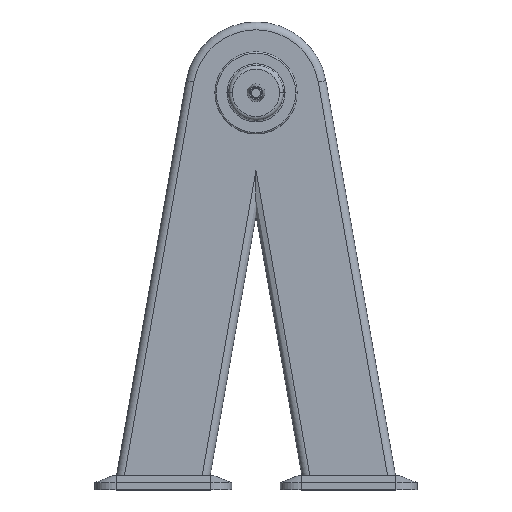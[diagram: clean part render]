
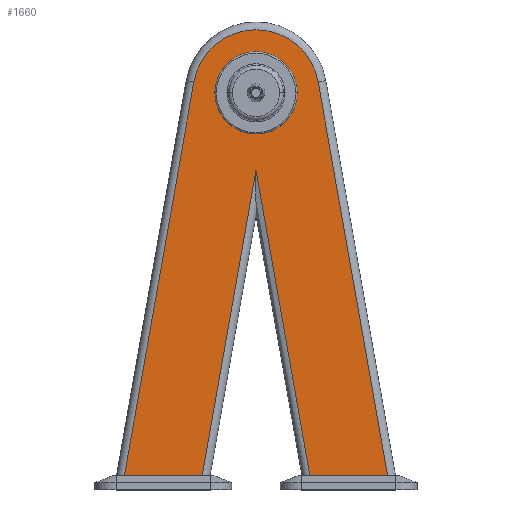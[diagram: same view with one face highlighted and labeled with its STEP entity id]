
A CAD part, top view. The second image highlights one B-rep face of the part: STEP entity #1660.
In plain terms, the highlighted planar face has unit normal (0, 0, 1).
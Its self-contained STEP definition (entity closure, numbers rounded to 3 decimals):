
#13 = CARTESIAN_POINT ( 'NONE',  ( 0., 20., 63. ) ) ;
#99 = VERTEX_POINT ( 'NONE', #2379 ) ;
#109 = ORIENTED_EDGE ( 'NONE', *, *, #558, .F. ) ;
#249 = AXIS2_PLACEMENT_3D ( 'NONE', #2354, #2359, #2585 ) ;
#265 = VERTEX_POINT ( 'NONE', #1722 ) ;
#314 = AXIS2_PLACEMENT_3D ( 'NONE', #1181, #1172, #1168 ) ;
#339 = EDGE_CURVE ( 'NONE', #99, #2601, #2583, .T. ) ;
#360 = DIRECTION ( 'NONE',  ( 0., 0., 1. ) ) ;
#407 = VECTOR ( 'NONE', #1117, 1000. ) ;
#479 = VECTOR ( 'NONE', #1148, 1000. ) ;
#550 = CIRCLE ( 'NONE', #314, 58. ) ;
#558 = EDGE_CURVE ( 'NONE', #2601, #99, #550, .T. ) ;
#567 = EDGE_CURVE ( 'NONE', #2722, #2272, #2791, .T. ) ;
#583 = EDGE_CURVE ( 'NONE', #2722, #2360, #1107, .T. ) ;
#595 = EDGE_CURVE ( 'NONE', #2360, #1395, #1744, .T. ) ;
#599 = EDGE_CURVE ( 'NONE', #2074, #1395, #1177, .T. ) ;
#604 = EDGE_CURVE ( 'NONE', #2074, #1398, #2691, .T. ) ;
#618 = EDGE_CURVE ( 'NONE', #1398, #265, #2637, .T. ) ;
#620 = EDGE_CURVE ( 'NONE', #265, #2272, #1032, .T. ) ;
#739 = CARTESIAN_POINT ( 'NONE',  ( -185.59, 20., 63. ) ) ;
#809 = ORIENTED_EDGE ( 'NONE', *, *, #339, .F. ) ;
#946 = AXIS2_PLACEMENT_3D ( 'NONE', #1090, #1085, #1082 ) ;
#979 = FACE_BOUND ( 'NONE', #2696, .T. ) ;
#1032 = LINE ( 'NONE', #1096, #1599 ) ;
#1039 = CARTESIAN_POINT ( 'NONE',  ( -58., 560., 63. ) ) ;
#1082 = DIRECTION ( 'NONE',  ( 1., 0., 0. ) ) ;
#1085 = DIRECTION ( 'NONE',  ( 0., 0., 1. ) ) ;
#1090 = CARTESIAN_POINT ( 'NONE',  ( 0., 560., 63. ) ) ;
#1096 = CARTESIAN_POINT ( 'NONE',  ( -190.511, -7.91, 63. ) ) ;
#1105 = DIRECTION ( 'NONE',  ( -0.174, -0.985, 0. ) ) ;
#1107 = LINE ( 'NONE', #1710, #479 ) ;
#1117 = DIRECTION ( 'NONE',  ( -0.174, 0.985, 0. ) ) ;
#1127 = ORIENTED_EDGE ( 'NONE', *, *, #604, .T. ) ;
#1131 = DIRECTION ( 'NONE',  ( -1., 0., 0. ) ) ;
#1136 = CARTESIAN_POINT ( 'NONE',  ( 87.648, 575.455, 63. ) ) ;
#1140 = DIRECTION ( 'NONE',  ( 0.174, -0.985, 0. ) ) ;
#1146 = CARTESIAN_POINT ( 'NONE',  ( 82.036, -14.664, 63. ) ) ;
#1148 = DIRECTION ( 'NONE',  ( 0.174, 0.985, 0. ) ) ;
#1150 = CARTESIAN_POINT ( 'NONE',  ( 0., 20., 63. ) ) ;
#1168 = DIRECTION ( 'NONE',  ( 1., 0., 0. ) ) ;
#1172 = DIRECTION ( 'NONE',  ( 0., 0., 1. ) ) ;
#1177 = LINE ( 'NONE', #1150, #2552 ) ;
#1181 = CARTESIAN_POINT ( 'NONE',  ( 0., 560., 63. ) ) ;
#1184 = DIRECTION ( 'NONE',  ( -1., 0., 0. ) ) ;
#1200 = ORIENTED_EDGE ( 'NONE', *, *, #618, .T. ) ;
#1303 = CARTESIAN_POINT ( 'NONE',  ( 0., 560., 63. ) ) ;
#1395 = VERTEX_POINT ( 'NONE', #2045 ) ;
#1398 = VERTEX_POINT ( 'NONE', #1836 ) ;
#1403 = CARTESIAN_POINT ( 'NONE',  ( 185.59, 20., 63. ) ) ;
#1550 = PLANE ( 'NONE',  #2693 ) ;
#1599 = VECTOR ( 'NONE', #1105, 1000. ) ;
#1620 = FACE_OUTER_BOUND ( 'NONE', #2533, .T. ) ;
#1660 = ADVANCED_FACE ( 'NONE', ( #979, #1620 ), #1550, .T. ) ;
#1698 = ORIENTED_EDGE ( 'NONE', *, *, #599, .F. ) ;
#1710 = CARTESIAN_POINT ( 'NONE',  ( -10.833, 389.147, 63. ) ) ;
#1722 = CARTESIAN_POINT ( 'NONE',  ( -87.648, 575.455, 63. ) ) ;
#1744 = LINE ( 'NONE', #1146, #2197 ) ;
#1836 = CARTESIAN_POINT ( 'NONE',  ( 87.648, 575.455, 63. ) ) ;
#1979 = DIRECTION ( 'NONE',  ( 1., 0., 0. ) ) ;
#2045 = CARTESIAN_POINT ( 'NONE',  ( 75.923, 20., 63. ) ) ;
#2051 = ORIENTED_EDGE ( 'NONE', *, *, #583, .T. ) ;
#2074 = VERTEX_POINT ( 'NONE', #1403 ) ;
#2197 = VECTOR ( 'NONE', #1140, 1000. ) ;
#2251 = VECTOR ( 'NONE', #1184, 1000. ) ;
#2272 = VERTEX_POINT ( 'NONE', #739 ) ;
#2289 = CARTESIAN_POINT ( 'NONE',  ( 0., 450.583, 63. ) ) ;
#2350 = CARTESIAN_POINT ( 'NONE',  ( -75.923, 20., 63. ) ) ;
#2354 = CARTESIAN_POINT ( 'NONE',  ( 0., 560., 63. ) ) ;
#2359 = DIRECTION ( 'NONE',  ( 0., 0., 1. ) ) ;
#2360 = VERTEX_POINT ( 'NONE', #2289 ) ;
#2379 = CARTESIAN_POINT ( 'NONE',  ( 58., 560., 63. ) ) ;
#2474 = ORIENTED_EDGE ( 'NONE', *, *, #567, .F. ) ;
#2533 = EDGE_LOOP ( 'NONE', ( #2474, #2051, #2655, #1698, #1127, #1200, #2810 ) ) ;
#2552 = VECTOR ( 'NONE', #1131, 1000. ) ;
#2583 = CIRCLE ( 'NONE', #249, 58. ) ;
#2585 = DIRECTION ( 'NONE',  ( 1., 0., 0. ) ) ;
#2601 = VERTEX_POINT ( 'NONE', #1039 ) ;
#2637 = CIRCLE ( 'NONE', #946, 89. ) ;
#2655 = ORIENTED_EDGE ( 'NONE', *, *, #595, .T. ) ;
#2691 = LINE ( 'NONE', #1136, #407 ) ;
#2693 = AXIS2_PLACEMENT_3D ( 'NONE', #1303, #360, #1979 ) ;
#2696 = EDGE_LOOP ( 'NONE', ( #109, #809 ) ) ;
#2722 = VERTEX_POINT ( 'NONE', #2350 ) ;
#2791 = LINE ( 'NONE', #13, #2251 ) ;
#2810 = ORIENTED_EDGE ( 'NONE', *, *, #620, .T. ) ;
